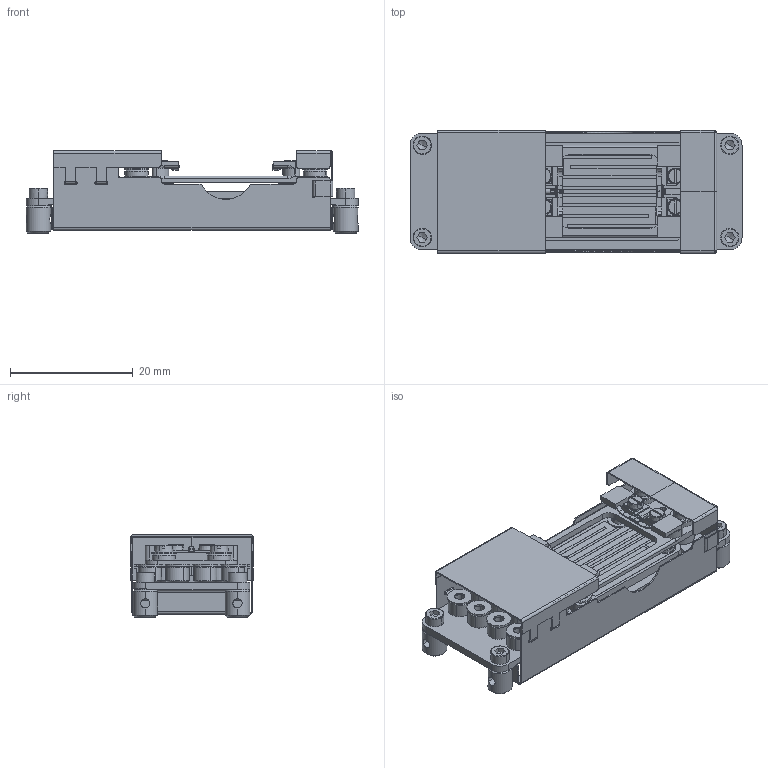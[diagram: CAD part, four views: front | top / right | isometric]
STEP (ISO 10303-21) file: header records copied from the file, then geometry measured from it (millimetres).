
FILE_DESCRIPTION(('Confidential','CAx-IF Rec.Pracs.--- Model Styling and Organization---1.2---2011-12-15'),'2;1');
FILE_NAME('W:\KONSTRUKTION\PRODUCTS\HS\HSOM\HSOMPBN50\HSOMPBN50_Rev_D.stp','2023-11-17T13:07:25+00:00',('none'),('Ferrovac AG'),'CATIA Version 5 Release 21 SP 6 (IN-10)','CATIA V5 STEP AP214','PROPERTY OF FERROVAC AG');
FILE_SCHEMA(('AUTOMOTIVE_DESIGN { 1 0 10303 214 1 1 1 1 }'));
Products named in the file (1): HSOMPBN50_Rev_D
Bounding box: 54 x 20 x 13.4 mm (x, y, z)
Volume: 3016.4 mm3; surface area: 10726.1 mm2
Topology: 1 solids, 16 shells, 1692 faces, 4268 edges, 2666 vertices
Faces by surface type: cylinder 682, plane 616, cone 250, torus 132, bspline 8, sphere 4
Entity records: 52985 total; most frequent: CARTESIAN_POINT 12990, ORIENTED_EDGE 8480, DIRECTION 6567, EDGE_CURVE 4240, AXIS2_PLACEMENT_3D 3082, VERTEX_POINT 2662, VECTOR 1961, LINE 1961
